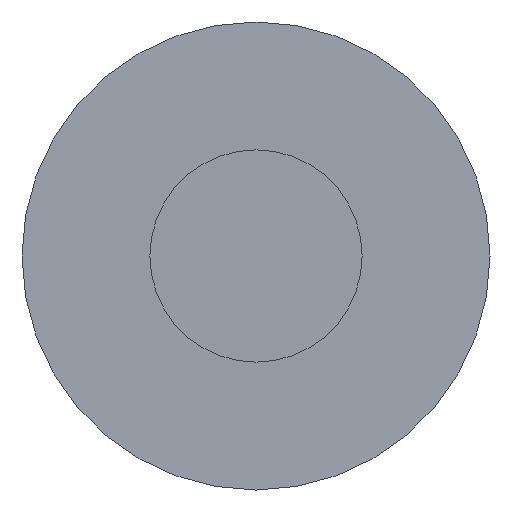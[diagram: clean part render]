
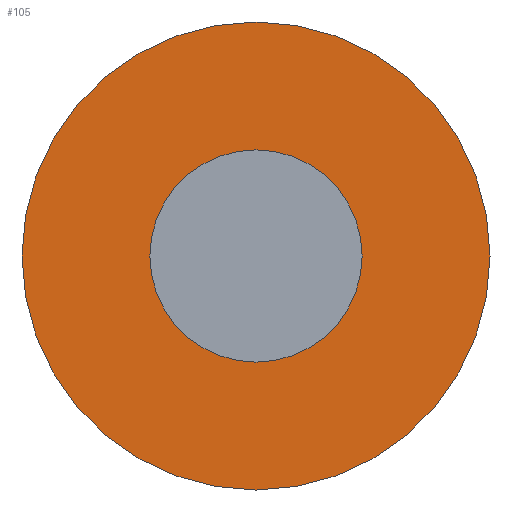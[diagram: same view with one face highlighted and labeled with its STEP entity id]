
A CAD part, left-side view. The second image highlights one B-rep face of the part: STEP entity #105.
In plain terms, the highlighted planar face has unit normal (-1, 0, 0).
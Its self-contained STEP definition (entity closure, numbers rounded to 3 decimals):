
#22 = VERTEX_POINT('',#23);
#23 = CARTESIAN_POINT('',(53.,77.2,-277.));
#32 = CYLINDRICAL_SURFACE('',#33,7.);
#33 = AXIS2_PLACEMENT_3D('',#34,#35,#36);
#34 = CARTESIAN_POINT('',(53.,84.2,-277.));
#35 = DIRECTION('',(-1.,-0.,-0.));
#36 = DIRECTION('',(0.,-1.,0.));
#79 = EDGE_CURVE('',#22,#22,#80,.T.);
#80 = SURFACE_CURVE('',#81,(#86,#93),.PCURVE_S1.);
#81 = CIRCLE('',#82,7.);
#82 = AXIS2_PLACEMENT_3D('',#83,#84,#85);
#83 = CARTESIAN_POINT('',(53.,84.2,-277.));
#84 = DIRECTION('',(1.,0.,0.));
#85 = DIRECTION('',(0.,-1.,0.));
#86 = PCURVE('',#32,#87);
#87 = DEFINITIONAL_REPRESENTATION('',(#88),#92);
#88 = LINE('',#89,#90);
#89 = CARTESIAN_POINT('',(-0.,0.));
#90 = VECTOR('',#91,1.);
#91 = DIRECTION('',(-1.,0.));
#92 = ( GEOMETRIC_REPRESENTATION_CONTEXT(2) 
PARAMETRIC_REPRESENTATION_CONTEXT() REPRESENTATION_CONTEXT('2D SPACE',''
  ) );
#93 = PCURVE('',#94,#99);
#94 = PLANE('',#95);
#95 = AXIS2_PLACEMENT_3D('',#96,#97,#98);
#96 = CARTESIAN_POINT('',(53.,84.2,-277.));
#97 = DIRECTION('',(1.,0.,0.));
#98 = DIRECTION('',(-0.,0.,1.));
#99 = DEFINITIONAL_REPRESENTATION('',(#100),#104);
#100 = CIRCLE('',#101,7.);
#101 = AXIS2_PLACEMENT_2D('',#102,#103);
#102 = CARTESIAN_POINT('',(0.,0.));
#103 = DIRECTION('',(0.,1.));
#104 = ( GEOMETRIC_REPRESENTATION_CONTEXT(2) 
PARAMETRIC_REPRESENTATION_CONTEXT() REPRESENTATION_CONTEXT('2D SPACE',''
  ) );
#105 = ADVANCED_FACE('',(#106,#109),#94,.F.);
#106 = FACE_BOUND('',#107,.F.);
#107 = EDGE_LOOP('',(#108));
#108 = ORIENTED_EDGE('',*,*,#79,.T.);
#109 = FACE_BOUND('',#110,.F.);
#110 = EDGE_LOOP('',(#111));
#111 = ORIENTED_EDGE('',*,*,#112,.F.);
#112 = EDGE_CURVE('',#113,#113,#115,.T.);
#113 = VERTEX_POINT('',#114);
#114 = CARTESIAN_POINT('',(53.,81.025,-277.));
#115 = SURFACE_CURVE('',#116,(#121,#128),.PCURVE_S1.);
#116 = CIRCLE('',#117,3.175);
#117 = AXIS2_PLACEMENT_3D('',#118,#119,#120);
#118 = CARTESIAN_POINT('',(53.,84.2,-277.));
#119 = DIRECTION('',(1.,0.,0.));
#120 = DIRECTION('',(0.,-1.,0.));
#121 = PCURVE('',#94,#122);
#122 = DEFINITIONAL_REPRESENTATION('',(#123),#127);
#123 = CIRCLE('',#124,3.175);
#124 = AXIS2_PLACEMENT_2D('',#125,#126);
#125 = CARTESIAN_POINT('',(0.,0.));
#126 = DIRECTION('',(0.,1.));
#127 = ( GEOMETRIC_REPRESENTATION_CONTEXT(2) 
PARAMETRIC_REPRESENTATION_CONTEXT() REPRESENTATION_CONTEXT('2D SPACE',''
  ) );
#128 = PCURVE('',#129,#134);
#129 = CYLINDRICAL_SURFACE('',#130,3.175);
#130 = AXIS2_PLACEMENT_3D('',#131,#132,#133);
#131 = CARTESIAN_POINT('',(25.5,84.2,-277.));
#132 = DIRECTION('',(-1.,-0.,-0.));
#133 = DIRECTION('',(0.,-1.,0.));
#134 = DEFINITIONAL_REPRESENTATION('',(#135),#139);
#135 = LINE('',#136,#137);
#136 = CARTESIAN_POINT('',(-0.,-27.5));
#137 = VECTOR('',#138,1.);
#138 = DIRECTION('',(-1.,0.));
#139 = ( GEOMETRIC_REPRESENTATION_CONTEXT(2) 
PARAMETRIC_REPRESENTATION_CONTEXT() REPRESENTATION_CONTEXT('2D SPACE',''
  ) );
